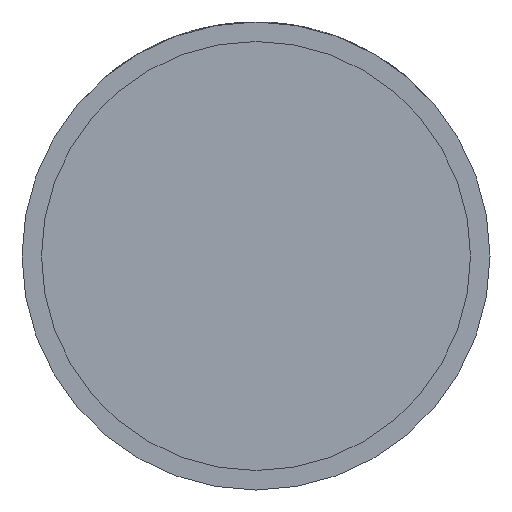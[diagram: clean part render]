
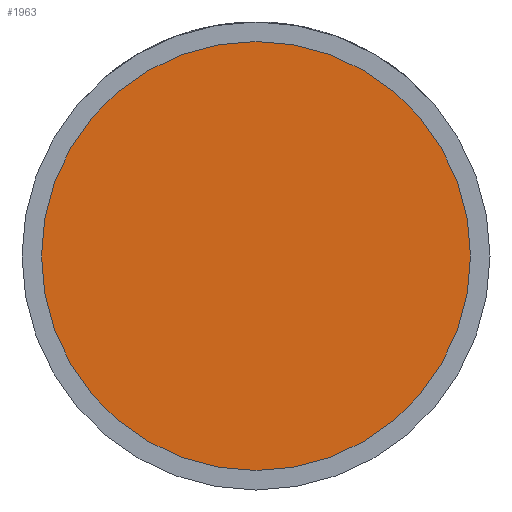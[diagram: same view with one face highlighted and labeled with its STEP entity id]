
A CAD part, front view. The second image highlights one B-rep face of the part: STEP entity #1963.
In plain terms, the highlighted planar face has unit normal (0, -1, 0).
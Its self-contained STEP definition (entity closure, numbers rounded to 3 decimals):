
#242 = EDGE_LOOP ( 'NONE', ( #2864, #1884 ) ) ;
#517 = DIRECTION ( 'NONE',  ( 0., -1., 0. ) ) ;
#813 = EDGE_CURVE ( 'NONE', #836, #1125, #3770, .T. ) ;
#836 = VERTEX_POINT ( 'NONE', #2210 ) ;
#963 = DIRECTION ( 'NONE',  ( 1., 0., 0. ) ) ;
#1125 = VERTEX_POINT ( 'NONE', #2049 ) ;
#1571 = CARTESIAN_POINT ( 'NONE',  ( 0., -17.5, 0. ) ) ;
#1675 = DIRECTION ( 'NONE',  ( 1., 0., 0. ) ) ;
#1884 = ORIENTED_EDGE ( 'NONE', *, *, #2375, .T. ) ;
#1902 = AXIS2_PLACEMENT_3D ( 'NONE', #3859, #517, #3535 ) ;
#1963 = ADVANCED_FACE ( 'NONE', ( #2620 ), #4249, .T. ) ;
#2049 = CARTESIAN_POINT ( 'NONE',  ( -22., -17.5, 0. ) ) ;
#2210 = CARTESIAN_POINT ( 'NONE',  ( 22., -17.5, 0. ) ) ;
#2375 = EDGE_CURVE ( 'NONE', #1125, #836, #4245, .T. ) ;
#2620 = FACE_OUTER_BOUND ( 'NONE', #242, .T. ) ;
#2864 = ORIENTED_EDGE ( 'NONE', *, *, #813, .T. ) ;
#2984 = DIRECTION ( 'NONE',  ( 0., -1., 0. ) ) ;
#2993 = AXIS2_PLACEMENT_3D ( 'NONE', #3275, #2984, #1675 ) ;
#3198 = AXIS2_PLACEMENT_3D ( 'NONE', #1571, #3937, #963 ) ;
#3275 = CARTESIAN_POINT ( 'NONE',  ( 22., -17.5, 0. ) ) ;
#3535 = DIRECTION ( 'NONE',  ( 1., 0., 0. ) ) ;
#3770 = CIRCLE ( 'NONE', #1902, 22. ) ;
#3859 = CARTESIAN_POINT ( 'NONE',  ( 0., -17.5, 0. ) ) ;
#3937 = DIRECTION ( 'NONE',  ( 0., -1., 0. ) ) ;
#4245 = CIRCLE ( 'NONE', #3198, 22. ) ;
#4249 = PLANE ( 'NONE',  #2993 ) ;
